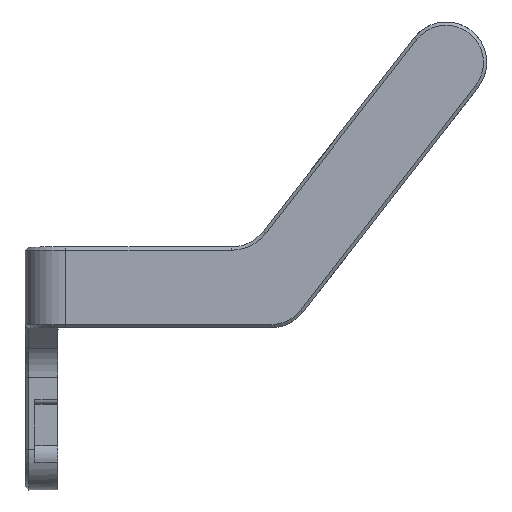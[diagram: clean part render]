
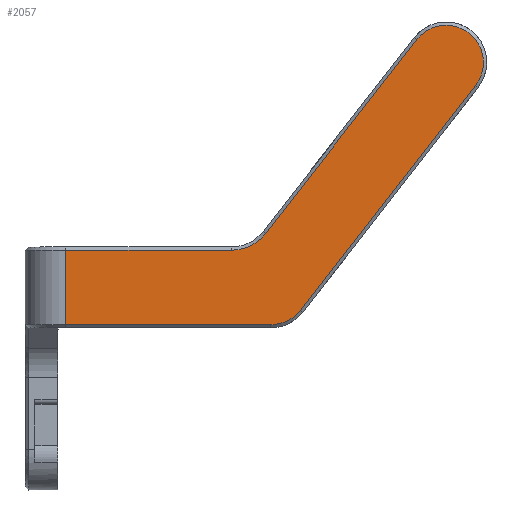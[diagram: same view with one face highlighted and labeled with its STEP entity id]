
A CAD part, top view. The second image highlights one B-rep face of the part: STEP entity #2057.
In plain terms, the highlighted planar face has unit normal (0, 0, 1).
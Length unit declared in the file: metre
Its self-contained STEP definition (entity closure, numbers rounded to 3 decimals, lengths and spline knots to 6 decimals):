
#83=CIRCLE('',#2208,0.0115);
#84=CIRCLE('',#2211,0.0135);
#85=CIRCLE('',#2213,0.0115);
#361=ORIENTED_EDGE('',*,*,#866,.T.);
#362=ORIENTED_EDGE('',*,*,#867,.T.);
#363=ORIENTED_EDGE('',*,*,#861,.T.);
#364=ORIENTED_EDGE('',*,*,#859,.T.);
#365=ORIENTED_EDGE('',*,*,#855,.T.);
#366=ORIENTED_EDGE('',*,*,#853,.T.);
#367=ORIENTED_EDGE('',*,*,#851,.T.);
#368=ORIENTED_EDGE('',*,*,#858,.T.);
#851=EDGE_CURVE('',#1112,#1111,#1315,.T.);
#853=EDGE_CURVE('',#1113,#1112,#83,.T.);
#855=EDGE_CURVE('',#1114,#1113,#1318,.T.);
#858=EDGE_CURVE('',#1111,#1115,#84,.F.);
#859=EDGE_CURVE('',#1116,#1114,#85,.T.);
#861=EDGE_CURVE('',#1117,#1116,#1322,.T.);
#866=EDGE_CURVE('',#1115,#1120,#1327,.T.);
#867=EDGE_CURVE('',#1120,#1117,#1328,.T.);
#1111=VERTEX_POINT('',#3193);
#1112=VERTEX_POINT('',#3195);
#1113=VERTEX_POINT('',#3199);
#1114=VERTEX_POINT('',#3203);
#1115=VERTEX_POINT('',#3207);
#1116=VERTEX_POINT('',#3211);
#1117=VERTEX_POINT('',#3215);
#1120=VERTEX_POINT('',#3223);
#1315=LINE('',#3194,#1540);
#1318=LINE('',#3202,#1543);
#1322=LINE('',#3214,#1547);
#1327=LINE('',#3224,#1552);
#1328=LINE('',#3226,#1553);
#1540=VECTOR('',#2563,1.);
#1543=VECTOR('',#2572,1.);
#1547=VECTOR('',#2586,1.);
#1552=VECTOR('',#2593,1.);
#1553=VECTOR('',#2596,1.);
#1723=EDGE_LOOP('',(#361,#362,#363,#364,#365,#366,#367,#368));
#1852=FACE_BOUND('',#1723,.T.);
#1963=PLANE('',#2216);
#2057=ADVANCED_FACE('',(#1852),#1963,.T.);
#2208=AXIS2_PLACEMENT_3D('',#3198,#2567,#2568);
#2211=AXIS2_PLACEMENT_3D('',#3208,#2577,#2578);
#2213=AXIS2_PLACEMENT_3D('',#3210,#2581,#2582);
#2216=AXIS2_PLACEMENT_3D('',#3225,#2594,#2595);
#2563=DIRECTION('',(-0.615,-0.789,0.));
#2567=DIRECTION('',(0.,0.,1.));
#2568=DIRECTION('',(1.,0.,0.));
#2572=DIRECTION('',(0.615,0.789,0.));
#2577=DIRECTION('',(0.,0.,1.));
#2578=DIRECTION('',(1.,0.,0.));
#2581=DIRECTION('',(0.,0.,1.));
#2582=DIRECTION('',(1.,0.,0.));
#2586=DIRECTION('',(1.,0.,0.));
#2593=DIRECTION('',(-1.,0.,0.));
#2594=DIRECTION('',(0.,0.,1.));
#2595=DIRECTION('',(1.,0.,0.));
#2596=DIRECTION('',(0.,-1.,0.));
#3193=CARTESIAN_POINT('',(-0.055719,-0.052798,0.016575));
#3194=CARTESIAN_POINT('',(-0.055719,-0.052798,0.016575));
#3195=CARTESIAN_POINT('',(-0.009071,0.007068,0.016575));
#3198=CARTESIAN_POINT('',(0.,0.,0.016575));
#3199=CARTESIAN_POINT('',(0.009071,-0.007068,0.016575));
#3202=CARTESIAN_POINT('',(-0.014916,-0.037852,0.016575));
#3203=CARTESIAN_POINT('',(-0.045084,-0.076568,0.016575));
#3207=CARTESIAN_POINT('',(-0.066368,-0.058,0.016575));
#3208=CARTESIAN_POINT('',(-0.066368,-0.0445,0.016575));
#3210=CARTESIAN_POINT('',(-0.054155,-0.0695,0.016575));
#3211=CARTESIAN_POINT('',(-0.054155,-0.081,0.016575));
#3214=CARTESIAN_POINT('',(-0.037643,-0.081,0.016575));
#3215=CARTESIAN_POINT('',(-0.1175,-0.081,0.016575));
#3223=CARTESIAN_POINT('',(-0.1175,-0.058,0.016575));
#3224=CARTESIAN_POINT('',(-0.1145,-0.058,0.016575));
#3225=CARTESIAN_POINT('',(-0.037643,-0.020143,0.016575));
#3226=CARTESIAN_POINT('',(-0.1175,-0.020143,0.016575));
